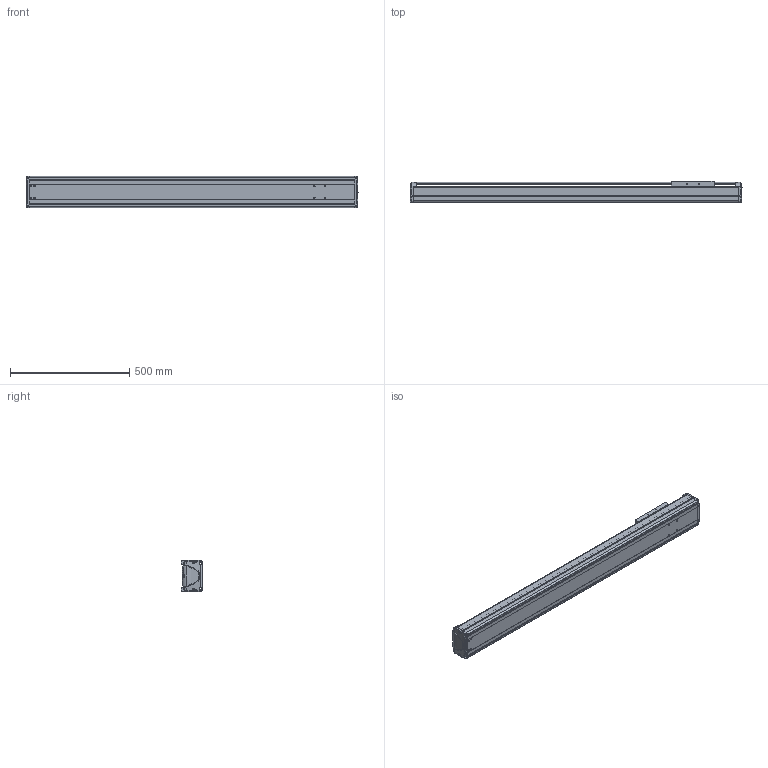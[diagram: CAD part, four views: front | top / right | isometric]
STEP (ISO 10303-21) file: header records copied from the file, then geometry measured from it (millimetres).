
FILE_DESCRIPTION((''),'2;1');
FILE_NAME('BE30E-ST-L_N-A5_IGS_PRT','2017-06-17T',(' '),(''),'PRO/ENGINEER BY PARAMETRIC TECHNOLOGY CORPORATION, 2015030','PRO/ENGINEER BY PARAMETRIC TECHNOLOGY CORPORATION, 2015030','');
FILE_SCHEMA(('CONFIG_CONTROL_DESIGN'));
Length unit declared in the file: millimetre
Products named in the file (1): BE30E-ST-L_N-A5_IGS_PRT
Bounding box: 1390 x 89.8 x 130 mm (x, y, z)
Volume: 4271903.6 mm3; surface area: 1667106.8 mm2
Topology: 3 solids, 98 shells, 1422 faces, 3848 edges, 2521 vertices
Faces by surface type: cylinder 667, plane 604, bspline 55, torus 42, cone 30, sphere 24
Entity records: 47975 total; most frequent: CARTESIAN_POINT 12007, DIRECTION 7429, ORIENTED_EDGE 7276, EDGE_CURVE 3828, AXIS2_PLACEMENT_3D 2706, VERTEX_POINT 2521, VECTOR 2017, LINE 2017
